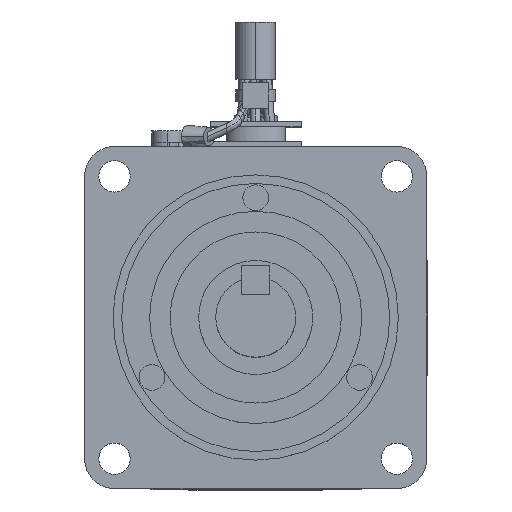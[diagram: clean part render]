
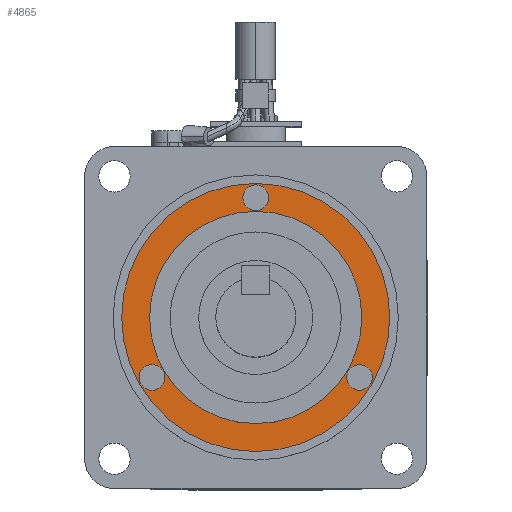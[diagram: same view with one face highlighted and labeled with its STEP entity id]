
A CAD part, top view. The second image highlights one B-rep face of the part: STEP entity #4865.
In plain terms, the highlighted planar face has unit normal (0, 0, 1).
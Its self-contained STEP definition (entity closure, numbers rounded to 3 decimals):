
#2523 = VERTEX_POINT ( 'NONE', #10564 ) ;
#2525 = EDGE_CURVE ( 'NONE', #2523, #2526, #10563, .T. ) ;
#2526 = VERTEX_POINT ( 'NONE', #10558 ) ;
#2576 = VERTEX_POINT ( 'NONE', #10644 ) ;
#2578 = EDGE_CURVE ( 'NONE', #2576, #2579, #10643, .T. ) ;
#2579 = VERTEX_POINT ( 'NONE', #10638 ) ;
#2593 = VERTEX_POINT ( 'NONE', #10671 ) ;
#2595 = EDGE_CURVE ( 'NONE', #2593, #2596, #10670, .T. ) ;
#2596 = VERTEX_POINT ( 'NONE', #10665 ) ;
#2663 = VERTEX_POINT ( 'NONE', #10787 ) ;
#2665 = EDGE_CURVE ( 'NONE', #2666, #2663, #10847, .T. ) ;
#2666 = VERTEX_POINT ( 'NONE', #10843 ) ;
#2680 = VERTEX_POINT ( 'NONE', #10815 ) ;
#2682 = EDGE_CURVE ( 'NONE', #2680, #2683, #10878, .T. ) ;
#2683 = VERTEX_POINT ( 'NONE', #10873 ) ;
#4865 = ADVANCED_FACE ( 'NONE', ( #15174, #15173, #15172, #15171, #15170 ), #15169, .F. ) ;
#4866 = EDGE_LOOP ( 'NONE', ( #4867, #4869 ) ) ;
#4867 = ORIENTED_EDGE ( 'NONE', *, *, #4868, .F. ) ;
#4868 = EDGE_CURVE ( 'NONE', #2596, #2593, #15230, .T. ) ;
#4869 = ORIENTED_EDGE ( 'NONE', *, *, #2595, .F. ) ;
#4870 = EDGE_LOOP ( 'NONE', ( #4871, #4872 ) ) ;
#4871 = ORIENTED_EDGE ( 'NONE', *, *, #2665, .T. ) ;
#4872 = ORIENTED_EDGE ( 'NONE', *, *, #4873, .T. ) ;
#4873 = EDGE_CURVE ( 'NONE', #2663, #2666, #15225, .T. ) ;
#4874 = EDGE_LOOP ( 'NONE', ( #4925, #4927 ) ) ;
#4925 = ORIENTED_EDGE ( 'NONE', *, *, #4926, .F. ) ;
#4926 = EDGE_CURVE ( 'NONE', #2683, #2680, #15328, .T. ) ;
#4927 = ORIENTED_EDGE ( 'NONE', *, *, #2682, .F. ) ;
#4928 = EDGE_LOOP ( 'NONE', ( #4929, #4931 ) ) ;
#4929 = ORIENTED_EDGE ( 'NONE', *, *, #4930, .F. ) ;
#4930 = EDGE_CURVE ( 'NONE', #2579, #2576, #15323, .T. ) ;
#4931 = ORIENTED_EDGE ( 'NONE', *, *, #2578, .F. ) ;
#4932 = EDGE_LOOP ( 'NONE', ( #4933, #4935 ) ) ;
#4933 = ORIENTED_EDGE ( 'NONE', *, *, #4934, .F. ) ;
#4934 = EDGE_CURVE ( 'NONE', #2526, #2523, #15318, .T. ) ;
#4935 = ORIENTED_EDGE ( 'NONE', *, *, #2525, .F. ) ;
#10558 = CARTESIAN_POINT ( 'NONE',  ( 15.937, -10.5, 0.3 ) ) ;
#10559 = DIRECTION ( 'NONE',  ( -1., 0., 0. ) ) ;
#10560 = DIRECTION ( 'NONE',  ( 0., 0., 1. ) ) ;
#10561 = CARTESIAN_POINT ( 'NONE',  ( 18.187, -10.5, 0.3 ) ) ;
#10562 = AXIS2_PLACEMENT_3D ( 'NONE', #10561, #10560, #10559 ) ;
#10563 = CIRCLE ( 'NONE', #10562, 2.25 ) ;
#10564 = CARTESIAN_POINT ( 'NONE',  ( 20.437, -10.5, 0.3 ) ) ;
#10638 = CARTESIAN_POINT ( 'NONE',  ( -2.25, 21., 0.3 ) ) ;
#10639 = DIRECTION ( 'NONE',  ( -1., 0., 0. ) ) ;
#10640 = DIRECTION ( 'NONE',  ( 0., 0., 1. ) ) ;
#10641 = CARTESIAN_POINT ( 'NONE',  ( 0., 21., 0.3 ) ) ;
#10642 = AXIS2_PLACEMENT_3D ( 'NONE', #10641, #10640, #10639 ) ;
#10643 = CIRCLE ( 'NONE', #10642, 2.25 ) ;
#10644 = CARTESIAN_POINT ( 'NONE',  ( 2.25, 21., 0.3 ) ) ;
#10665 = CARTESIAN_POINT ( 'NONE',  ( -20.437, -10.5, 0.3 ) ) ;
#10666 = DIRECTION ( 'NONE',  ( -1., 0., 0. ) ) ;
#10667 = DIRECTION ( 'NONE',  ( 0., 0., 1. ) ) ;
#10668 = CARTESIAN_POINT ( 'NONE',  ( -18.187, -10.5, 0.3 ) ) ;
#10669 = AXIS2_PLACEMENT_3D ( 'NONE', #10668, #10667, #10666 ) ;
#10670 = CIRCLE ( 'NONE', #10669, 2.25 ) ;
#10671 = CARTESIAN_POINT ( 'NONE',  ( -15.937, -10.5, 0.3 ) ) ;
#10786 = CARTESIAN_POINT ( 'NONE',  ( 0., 0., 0.3 ) ) ;
#10787 = CARTESIAN_POINT ( 'NONE',  ( 18.6, 0., 0.3 ) ) ;
#10815 = CARTESIAN_POINT ( 'NONE',  ( 23.5, 0., 0.3 ) ) ;
#10843 = CARTESIAN_POINT ( 'NONE',  ( -18.6, 0., 0.3 ) ) ;
#10844 = DIRECTION ( 'NONE',  ( -1., 0., 0. ) ) ;
#10845 = DIRECTION ( 'NONE',  ( 0., 0., -1. ) ) ;
#10846 = AXIS2_PLACEMENT_3D ( 'NONE', #10786, #10845, #10844 ) ;
#10847 = CIRCLE ( 'NONE', #10846, 18.6 ) ;
#10873 = CARTESIAN_POINT ( 'NONE',  ( -23.5, 0., 0.3 ) ) ;
#10874 = DIRECTION ( 'NONE',  ( -1., 0., 0. ) ) ;
#10875 = DIRECTION ( 'NONE',  ( 0., 0., -1. ) ) ;
#10876 = CARTESIAN_POINT ( 'NONE',  ( 0., 0., 0.3 ) ) ;
#10877 = AXIS2_PLACEMENT_3D ( 'NONE', #10876, #10875, #10874 ) ;
#10878 = CIRCLE ( 'NONE', #10877, 23.5 ) ;
#15169 = PLANE ( 'NONE',  #15234 ) ;
#15170 = FACE_BOUND ( 'NONE', #4932, .T. ) ;
#15171 = FACE_BOUND ( 'NONE', #4928, .T. ) ;
#15172 = FACE_OUTER_BOUND ( 'NONE', #4874, .T. ) ;
#15173 = FACE_BOUND ( 'NONE', #4870, .T. ) ;
#15174 = FACE_BOUND ( 'NONE', #4866, .T. ) ;
#15221 = DIRECTION ( 'NONE',  ( -1., 0., 0. ) ) ;
#15222 = DIRECTION ( 'NONE',  ( 0., 0., -1. ) ) ;
#15223 = CARTESIAN_POINT ( 'NONE',  ( 0., 0., 0.3 ) ) ;
#15224 = AXIS2_PLACEMENT_3D ( 'NONE', #15223, #15222, #15221 ) ;
#15225 = CIRCLE ( 'NONE', #15224, 18.6 ) ;
#15226 = DIRECTION ( 'NONE',  ( -1., 0., 0. ) ) ;
#15227 = DIRECTION ( 'NONE',  ( 0., 0., 1. ) ) ;
#15228 = CARTESIAN_POINT ( 'NONE',  ( -18.187, -10.5, 0.3 ) ) ;
#15229 = AXIS2_PLACEMENT_3D ( 'NONE', #15228, #15227, #15226 ) ;
#15230 = CIRCLE ( 'NONE', #15229, 2.25 ) ;
#15231 = DIRECTION ( 'NONE',  ( -1., 0., 0. ) ) ;
#15232 = DIRECTION ( 'NONE',  ( 0., 0., -1. ) ) ;
#15233 = CARTESIAN_POINT ( 'NONE',  ( 0., 18.6, 0.3 ) ) ;
#15234 = AXIS2_PLACEMENT_3D ( 'NONE', #15233, #15232, #15231 ) ;
#15314 = DIRECTION ( 'NONE',  ( -1., 0., 0. ) ) ;
#15315 = DIRECTION ( 'NONE',  ( 0., 0., 1. ) ) ;
#15316 = CARTESIAN_POINT ( 'NONE',  ( 18.187, -10.5, 0.3 ) ) ;
#15317 = AXIS2_PLACEMENT_3D ( 'NONE', #15316, #15315, #15314 ) ;
#15318 = CIRCLE ( 'NONE', #15317, 2.25 ) ;
#15319 = DIRECTION ( 'NONE',  ( -1., 0., 0. ) ) ;
#15320 = DIRECTION ( 'NONE',  ( 0., 0., 1. ) ) ;
#15321 = CARTESIAN_POINT ( 'NONE',  ( 0., 21., 0.3 ) ) ;
#15322 = AXIS2_PLACEMENT_3D ( 'NONE', #15321, #15320, #15319 ) ;
#15323 = CIRCLE ( 'NONE', #15322, 2.25 ) ;
#15324 = DIRECTION ( 'NONE',  ( -1., 0., 0. ) ) ;
#15325 = DIRECTION ( 'NONE',  ( 0., 0., -1. ) ) ;
#15326 = CARTESIAN_POINT ( 'NONE',  ( 0., 0., 0.3 ) ) ;
#15327 = AXIS2_PLACEMENT_3D ( 'NONE', #15326, #15325, #15324 ) ;
#15328 = CIRCLE ( 'NONE', #15327, 23.5 ) ;
